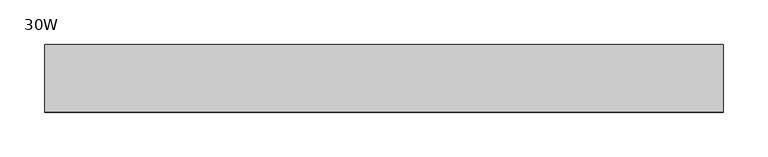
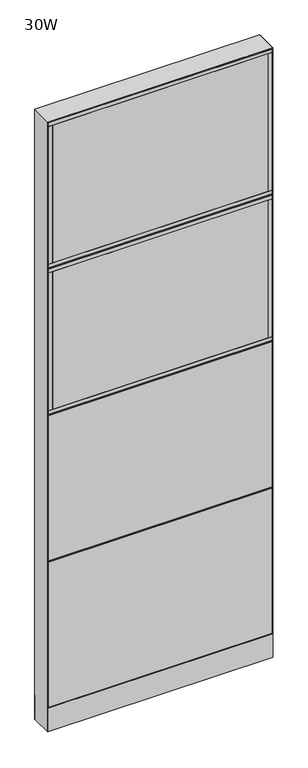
"""IFC4 building model written with IfcOpenShell, lengths in millimetres: furniture geometry, Steelcase - Montage - Frame - 86H - Enhanced Monolithic - Base Cavity : 30W."""

from ifc_helpers import new_model, si_unit, point, frame, frame_2d, origin, origin_with_axes, place, context, project, spatial, polyline, circle_curve, trimmed, segment, composite_curve, outline, extrude, faceted_brep, source, transform, mapped, element, save


def furniture_30w_58f630c5(model_context):
    return source(origin(), model_context, "Body", "SolidModel", [
        extrude(outline(polyline([(3.175, 31.7500194), (3.175, 38.1000194), (758.825, 38.1000194), (758.825, 31.7500194), (3.175, 31.7500194)])), frame((0.0, 0.0, 92.075), z_axis=(0.0, 0.0, 1.0), x_axis=(1.0, 0.0, 0.0)), (0.0, 0.0, 1.0), 517.525),
        extrude(outline(polyline([(3.175, 31.7500194), (3.175, 38.1000194), (758.825, 38.1000194), (758.825, 31.7500194), (3.175, 31.7500194)])), frame((0.0, 0.0, 615.95), z_axis=(0.0, 0.0, 1.0), x_axis=(1.0, 0.0, 0.0)), (0.0, 0.0, 1.0), 517.525),
        extrude(outline(polyline([(746.125, -31.7499985), (746.125, -38.1000015), (15.875, -38.1000015), (15.875, -31.7499985), (746.125, -31.7499985)])), frame((0.0, 0.0, 1152.525), z_axis=(0.0, 0.0, 1.0), x_axis=(1.0, 0.0, 0.0)), (0.0, 0.0, 1.0), 492.125),
        extrude(outline(polyline([(746.125, 38.1000015), (746.125, 31.7500017), (15.875, 31.7500017), (15.875, 38.1000015), (746.125, 38.1000015)])), frame((0.0, 0.0, 1152.525), z_axis=(0.0, 0.0, 1.0), x_axis=(1.0, 0.0, 0.0)), (0.0, 0.0, 1.0), 492.125),
        extrude(outline(polyline([(758.825, -38.1000015), (746.125, -38.1000015), (746.125, 38.1000015), (758.825, 38.1000015), (758.825, -38.1000015)])), frame((0.0, 0.0, 1152.525), z_axis=(0.0, 0.0, 1.0), x_axis=(1.0, 0.0, 0.0)), (0.0, 0.0, 1.0), 492.125),
        extrude(outline(polyline([(15.875, -38.1000015), (3.175, -38.1000015), (3.175, 38.1000015), (15.875, 38.1000015), (15.875, -38.1000015)])), frame((0.0, 0.0, 1152.525), z_axis=(0.0, 0.0, 1.0), x_axis=(1.0, 0.0, 0.0)), (0.0, 0.0, 1.0), 492.125),
        extrude(outline(polyline([(758.825, -38.1000015), (3.175, -38.1000015), (3.175, 38.1000015), (758.825, 38.1000015), (758.825, -38.1000015)])), frame((0.0, 0.0, 1139.825), z_axis=(0.0, 0.0, 1.0), x_axis=(1.0, 0.0, 0.0)), (0.0, 0.0, 1.0), 12.7),
        extrude(outline(polyline([(758.825, -38.1000015), (3.175, -38.1000015), (3.175, 38.1000015), (758.825, 38.1000015), (758.825, -38.1000015)])), frame((0.0, 0.0, 1644.65), z_axis=(0.0, 0.0, 1.0), x_axis=(1.0, 0.0, 0.0)), (0.0, 0.0, 1.0), 12.7),
        extrude(outline(polyline([(746.125, 38.1000015), (746.125, 31.7500017), (15.875, 31.7500017), (15.875, 38.1000015), (746.125, 38.1000015)])), frame((0.0, 0.0, 1676.4), z_axis=(0.0, 0.0, 1.0), x_axis=(1.0, 0.0, 0.0)), (0.0, 0.0, 1.0), 492.125),
        extrude(outline(polyline([(746.125, -31.7499985), (746.125, -38.1000015), (15.875, -38.1000015), (15.875, -31.7499985), (746.125, -31.7499985)])), frame((0.0, 0.0, 1676.4), z_axis=(0.0, 0.0, 1.0), x_axis=(1.0, 0.0, 0.0)), (0.0, 0.0, 1.0), 492.125),
        extrude(outline(polyline([(758.825, -38.1000015), (746.125, -38.1000015), (746.125, 38.1000015), (758.825, 38.1000015), (758.825, -38.1000015)])), frame((0.0, 0.0, 1676.4), z_axis=(0.0, 0.0, 1.0), x_axis=(1.0, 0.0, 0.0)), (0.0, 0.0, 1.0), 492.125),
        extrude(outline(polyline([(15.875, -38.1000015), (3.175, -38.1000015), (3.175, 38.1000015), (15.875, 38.1000015), (15.875, -38.1000015)])), frame((0.0, 0.0, 1676.4), z_axis=(0.0, 0.0, 1.0), x_axis=(1.0, 0.0, 0.0)), (0.0, 0.0, 1.0), 492.125),
        extrude(outline(polyline([(758.825, -38.1000015), (3.175, -38.1000015), (3.175, 38.1000015), (758.825, 38.1000015), (758.825, -38.1000015)])), frame((0.0, 0.0, 1663.7), z_axis=(0.0, 0.0, 1.0), x_axis=(1.0, 0.0, 0.0)), (0.0, 0.0, 1.0), 12.7),
        extrude(outline(polyline([(758.825, -38.1000015), (3.175, -38.1000015), (3.175, 38.1000015), (758.825, 38.1000015), (758.825, -38.1000015)])), frame((0.0, 0.0, 2168.525), z_axis=(0.0, 0.0, 1.0), x_axis=(1.0, 0.0, 0.0)), (0.0, 0.0, 1.0), 12.7),
        faceted_brep([(-5.4e-06, 38.102627, 1136.6500027), (6.3499917, 31.7526299, 1142.9999997), (755.6500047, 31.7526299, 1142.9999997), (762.0, 38.1026253, 1136.6500044), (755.6500047, 31.7526299, 1130.3000003), (6.3499917, 31.7526299, 1130.3000003)], [[[0, 1, 2, 3]], [[3, 4, 5, 0]], [[1, 5, 4, 2]], [[0, 5, 1]], [[2, 4, 3]]]),
        faceted_brep([(-5.4e-06, 38.102627, 612.7750027), (6.3499917, 31.7526299, 619.1249997), (755.6500047, 31.7526299, 619.1249997), (762.0, 38.1026253, 612.7750044), (755.6500047, 31.7526299, 606.4250003), (6.3499917, 31.7526299, 606.4250003)], [[[0, 1, 2, 3]], [[3, 4, 5, 0]], [[1, 5, 4, 2]], [[0, 5, 1]], [[2, 4, 3]]]),
        faceted_brep([(-5.4e-06, 38.102627, 1660.5250027), (6.3499917, 31.7526299, 1666.8749997), (755.6500047, 31.7526299, 1666.8749997), (762.0, 38.1026253, 1660.5250044), (755.6500047, 31.7526299, 1654.1750003), (6.3499917, 31.7526299, 1654.1750003)], [[[0, 1, 2, 3]], [[3, 4, 5, 0]], [[1, 5, 4, 2]], [[0, 5, 1]], [[2, 4, 3]]]),
        extrude(outline(polyline([(3.175, -31.7500194), (758.825, -31.7500194), (758.825, -38.1000194), (3.175, -38.1000194), (3.175, -31.7500194)])), frame((0.0, 0.0, 92.075), z_axis=(0.0, 0.0, 1.0), x_axis=(1.0, 0.0, 0.0)), (0.0, 0.0, 1.0), 517.525),
        extrude(outline(polyline([(3.175, -31.7500194), (758.825, -31.7500194), (758.825, -38.1000194), (3.175, -38.1000194), (3.175, -31.7500194)])), frame((0.0, 0.0, 615.95), z_axis=(0.0, 0.0, 1.0), x_axis=(1.0, 0.0, 0.0)), (0.0, 0.0, 1.0), 517.525),
        extrude(outline(polyline([(746.125, -38.1000015), (15.875, -38.1000015), (15.875, -31.7500017), (746.125, -31.7500017), (746.125, -38.1000015)])), frame((0.0, 0.0, 1152.525), z_axis=(0.0, 0.0, 1.0), x_axis=(1.0, 0.0, 0.0)), (0.0, 0.0, 1.0), 492.125),
        extrude(outline(polyline([(746.125, 31.7499985), (15.875, 31.7499985), (15.875, 38.1000015), (746.125, 38.1000015), (746.125, 31.7499985)])), frame((0.0, 0.0, 1152.525), z_axis=(0.0, 0.0, 1.0), x_axis=(1.0, 0.0, 0.0)), (0.0, 0.0, 1.0), 492.125),
        extrude(outline(polyline([(758.825, 38.1000015), (758.825, -38.1000015), (746.125, -38.1000015), (746.125, 38.1000015), (758.825, 38.1000015)])), frame((0.0, 0.0, 1152.525), z_axis=(0.0, 0.0, 1.0), x_axis=(1.0, 0.0, 0.0)), (0.0, 0.0, 1.0), 492.125),
        extrude(outline(polyline([(15.875, 38.1000015), (15.875, -38.1000015), (3.175, -38.1000015), (3.175, 38.1000015), (15.875, 38.1000015)])), frame((0.0, 0.0, 1152.525), z_axis=(0.0, 0.0, 1.0), x_axis=(1.0, 0.0, 0.0)), (0.0, 0.0, 1.0), 492.125),
        extrude(outline(polyline([(758.825, 38.1000015), (758.825, -38.1000015), (3.175, -38.1000015), (3.175, 38.1000015), (758.825, 38.1000015)])), frame((0.0, 0.0, 1139.825), z_axis=(0.0, 0.0, 1.0), x_axis=(1.0, 0.0, 0.0)), (0.0, 0.0, 1.0), 12.7),
        extrude(outline(polyline([(758.825, 38.1000015), (758.825, -38.1000015), (3.175, -38.1000015), (3.175, 38.1000015), (758.825, 38.1000015)])), frame((0.0, 0.0, 1644.65), z_axis=(0.0, 0.0, 1.0), x_axis=(1.0, 0.0, 0.0)), (0.0, 0.0, 1.0), 12.7),
        extrude(outline(polyline([(746.125, -38.1000015), (15.875, -38.1000015), (15.875, -31.7500017), (746.125, -31.7500017), (746.125, -38.1000015)])), frame((0.0, 0.0, 1676.4), z_axis=(0.0, 0.0, 1.0), x_axis=(1.0, 0.0, 0.0)), (0.0, 0.0, 1.0), 492.125),
        extrude(outline(polyline([(746.125, 31.7499985), (15.875, 31.7499985), (15.875, 38.1000015), (746.125, 38.1000015), (746.125, 31.7499985)])), frame((0.0, 0.0, 1676.4), z_axis=(0.0, 0.0, 1.0), x_axis=(1.0, 0.0, 0.0)), (0.0, 0.0, 1.0), 492.125),
        extrude(outline(polyline([(758.825, 38.1000015), (758.825, -38.1000015), (746.125, -38.1000015), (746.125, 38.1000015), (758.825, 38.1000015)])), frame((0.0, 0.0, 1676.4), z_axis=(0.0, 0.0, 1.0), x_axis=(1.0, 0.0, 0.0)), (0.0, 0.0, 1.0), 492.125),
        extrude(outline(polyline([(15.875, 38.1000015), (15.875, -38.1000015), (3.175, -38.1000015), (3.175, 38.1000015), (15.875, 38.1000015)])), frame((0.0, 0.0, 1676.4), z_axis=(0.0, 0.0, 1.0), x_axis=(1.0, 0.0, 0.0)), (0.0, 0.0, 1.0), 492.125),
        extrude(outline(polyline([(758.825, 38.1000015), (758.825, -38.1000015), (3.175, -38.1000015), (3.175, 38.1000015), (758.825, 38.1000015)])), frame((0.0, 0.0, 1663.7), z_axis=(0.0, 0.0, 1.0), x_axis=(1.0, 0.0, 0.0)), (0.0, 0.0, 1.0), 12.7),
        extrude(outline(polyline([(758.825, 38.1000015), (758.825, -38.1000015), (3.175, -38.1000015), (3.175, 38.1000015), (758.825, 38.1000015)])), frame((0.0, 0.0, 2168.525), z_axis=(0.0, 0.0, 1.0), x_axis=(1.0, 0.0, 0.0)), (0.0, 0.0, 1.0), 12.7),
        faceted_brep([(0.0, -38.1026297, 1136.65), (762.0, -38.1026297, 1136.65), (755.6500047, -31.7526299, 1142.9999997), (6.3499917, -31.7526299, 1142.9999997), (6.3499917, -31.7526299, 1130.3000003), (755.6500047, -31.7526299, 1130.3000003)], [[[0, 1, 2, 3]], [[1, 0, 4, 5]], [[3, 2, 5, 4]], [[0, 3, 4]], [[2, 1, 5]]]),
        faceted_brep([(0.0, -38.1026297, 612.775), (762.0, -38.1026297, 612.775), (755.6500047, -31.7526299, 619.1249997), (6.3499917, -31.7526299, 619.1249997), (6.3499917, -31.7526299, 606.4250003), (755.6500047, -31.7526299, 606.4250003)], [[[0, 1, 2, 3]], [[1, 0, 4, 5]], [[3, 2, 5, 4]], [[0, 3, 4]], [[2, 1, 5]]]),
        faceted_brep([(0.0, -38.1026297, 1660.525), (762.0, -38.1026297, 1660.525), (755.6500047, -31.7526299, 1666.8749997), (6.3499917, -31.7526299, 1666.8749997), (6.3499917, -31.7526299, 1654.1750003), (755.6500047, -31.7526299, 1654.1750003)], [[[0, 1, 2, 3]], [[1, 0, 4, 5]], [[3, 2, 5, 4]], [[0, 3, 4]], [[2, 1, 5]]]),
        extrude(outline(polyline([(6.350003, -31.7499985), (755.649997, -31.7499985), (762.0, -38.1000015), (0.0, -38.1000015), (6.350003, -31.7499985)])), frame((0.0, 0.0, 4.064), z_axis=(0.0, 0.0, 1.0), x_axis=(1.0, 0.0, 0.0)), (0.0, 0.0, 1.0), 84.835997),
        extrude(outline(polyline([(6.3500002, 31.7500017), (0.0, 38.1000015), (762.0, 38.1000015), (755.6500002, 31.7500017), (6.3500002, 31.7500017)])), frame((0.0, 0.0, 4.064), z_axis=(0.0, 0.0, 1.0), x_axis=(1.0, 0.0, 0.0)), (0.0, 0.0, 1.0), 84.835997),
        faceted_brep([(762.0, -38.1000015, 2184.4), (0.0, -38.1000015, 2184.4), (6.3500484, -31.749953, 2178.0499516), (755.6499516, -31.749953, 2178.0499516), (6.3500484, 31.749953, 2178.0499516), (755.6499516, 31.749953, 2178.0499516), (0.0, 38.1000015, 2184.4), (762.0, 38.1000015, 2184.4)], [[[0, 1, 2, 3]], [[3, 2, 4, 5]], [[6, 7, 5, 4]], [[1, 0, 7, 6]], [[2, 1, 6, 4]], [[0, 3, 5, 7]]]),
        extrude(outline(composite_curve([segment(trimmed(circle_curve(frame_2d((44.45, 0.0)), 15.24), [point((29.21, 0.0))], [point((59.69, 0.0))], False, "CARTESIAN"), True, "CONTINUOUS"), segment(trimmed(circle_curve(frame_2d((44.45, 0.0)), 15.24), [point((59.69, 0.0))], [point((29.21, 0.0))], False, "CARTESIAN"), True, "CONTINUOUS")], self_intersect=False)), origin_with_axes(), (0.0, 0.0, 1.0), 4.064),
        extrude(outline(composite_curve([segment(trimmed(circle_curve(frame_2d((717.55, 0.0)), 15.24), [point((702.31, 0.0))], [point((732.79, 0.0))], False, "CARTESIAN"), True, "CONTINUOUS"), segment(trimmed(circle_curve(frame_2d((717.55, 0.0)), 15.24), [point((732.79, 0.0))], [point((702.31, 0.0))], False, "CARTESIAN"), True, "CONTINUOUS")], self_intersect=False)), origin_with_axes(), (0.0, 0.0, 1.0), 4.064),
        faceted_brep([(762.0, -38.1000106, 4.064), (762.0, 38.1000015, 4.064), (762.0, 38.1000015, 2184.4), (762.0, -38.1000106, 2184.3999637), (0.0, 38.1000015, 4.064), (0.0, -38.1000015, 4.064), (0.0, -38.1000015, 2184.4), (0.0, 38.1000015, 2184.4), (755.6499879, 31.7500017, 606.425), (6.35, 31.7500017, 606.425), (6.3499998, 31.7500017, 619.125), (755.6499879, 31.7500017, 619.125), (6.35, -31.7499985, 619.125), (755.6499879, -31.7499985, 619.125), (6.350003, -31.7499985, 606.425), (755.6499879, -31.7499985, 606.425), (755.6499879, 31.7500017, 1130.3), (6.35, 31.7500017, 1130.3), (6.3499998, 31.7500017, 1143.0), (755.6499879, 31.7500017, 1143.0), (6.35, -31.7499985, 1143.0), (755.6499879, -31.7499985, 1143.0), (6.350003, -31.7499985, 1130.3), (755.6499879, -31.7499985, 1130.3), (6.35, 31.7500015, 4.064), (6.35, -31.7500015, 4.064), (755.6499879, 31.7499894, 4.064), (755.6499879, -31.7499985, 4.064), (6.35, 31.7500015, 2178.05), (6.3499999, 31.7500016, 1666.875), (6.3499998, 31.7500017, 1654.175), (6.3500015, -31.75, 1654.175), (6.350003, -31.7499985, 1666.875), (6.35, -31.7500015, 2178.05), (755.6499879, 31.7500017, 1654.175), (755.6499879, -31.7499985, 1654.175), (755.6499879, 31.7500017, 1666.875), (755.6499879, -31.7499985, 1666.875), (755.6499879, -31.7499985, 2178.0499516), (755.6499879, 31.7499895, 2178.0499516)], [[[0, 1, 2, 3]], [[4, 5, 6, 7]], [[8, 9, 10, 11]], [[11, 10, 12, 13]], [[13, 12, 14, 15]], [[9, 8, 15, 14]], [[16, 17, 18, 19]], [[19, 18, 20, 21]], [[21, 20, 22, 23]], [[17, 16, 23, 22]], [[24, 25, 5, 4]], [[26, 1, 0, 27]], [[24, 4, 7, 28, 29, 30, 18, 17, 10, 9]], [[5, 25, 14, 12, 22, 20, 31, 32, 33, 6]], [[25, 24, 9, 14]], [[18, 30, 31, 20]], [[10, 17, 22, 12]], [[32, 29, 28, 33]], [[26, 27, 15, 8]], [[16, 11, 13, 23]], [[34, 19, 21, 35]], [[36, 37, 38, 39]], [[27, 0, 3, 38, 37, 35, 21, 23, 13, 15]], [[1, 26, 8, 11, 16, 19, 34, 36, 39, 2]], [[7, 6, 33, 28]], [[3, 2, 39, 38]], [[34, 30, 29, 36]], [[36, 29, 32, 37]], [[37, 32, 31, 35]], [[30, 34, 35, 31]]]),
    ])


if __name__ == "__main__":
    model = new_model("IFC4")
    model_context = context("Model", 3, world=origin())
    ifc_project = project(units=[si_unit("LENGTHUNIT", "METRE", prefix="MILLI")], contexts=[model_context])
    site = spatial("IfcSite", under=ifc_project)
    building = spatial("IfcBuilding", under=site)
    placement = place(None, origin())
    furniture_30w_shape = furniture_30w_58f630c5(model_context)
    element("IfcFurniture", 1, ObjectType="Steelcase - Montage - Frame - 86H - Enhanced Monolithic - Base Cavity : 30W", at=placement, inside=building, context=model_context, shape_type="MappedRepresentation", body=[
        mapped(furniture_30w_shape, transform((0.0, 0.0, 0.0), x_axis=(1.0, 0.0, 0.0), y_axis=(0.0, 1.0, 0.0), z_axis=(0.0, 0.0, 1.0))),
    ])
    save(model, "model.ifc")
